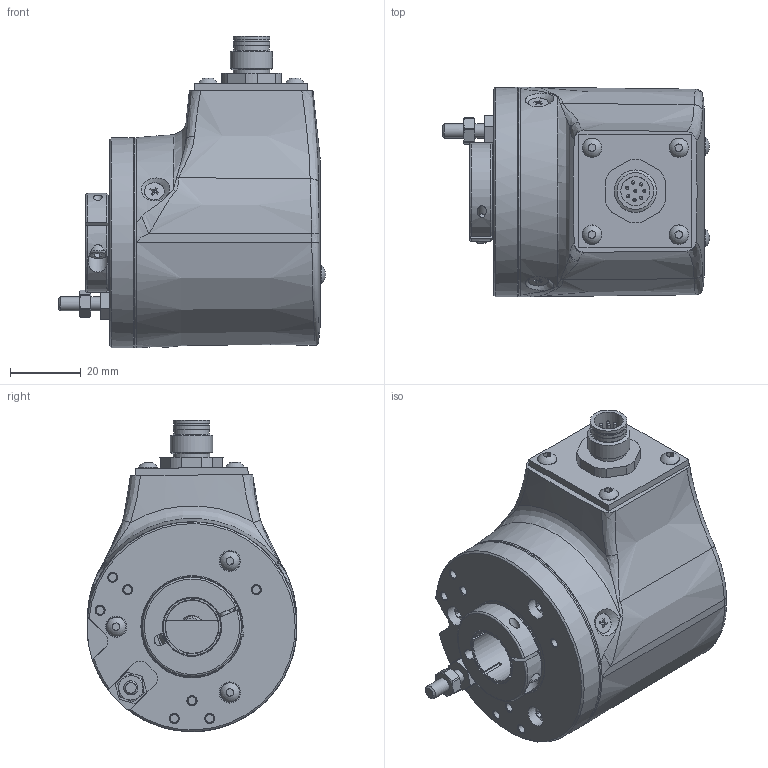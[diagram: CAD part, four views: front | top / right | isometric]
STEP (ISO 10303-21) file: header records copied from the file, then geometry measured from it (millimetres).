
FILE_DESCRIPTION(/* description */ ('Unknown'),/* implementation_level */ '2;1');
FILE_NAME(/* name */ 'EAL_EAML_63_G_M12R',/* time_stamp */ '2018-11-12T13:55:32+01:00',/* author */ ('Unknown'),/* organization */ ('Unknown'),/* preprocessor_version */ 'ST-DEVELOPER v16.7',/* originating_system */ 'DEX',/* authorisation */ $);
FILE_SCHEMA (('AUTOMOTIVE_DESIGN {1 0 10303 214 3 1 1}'));
Products named in the file (1): EAL_EAML_63_G_M12R
Bounding box: 75.74 x 59.5 x 88.27 mm (x, y, z)
Volume: 97362.9 mm3; surface area: 55745.1 mm2
Topology: 1 solids, 38 shells, 1681 faces, 4460 edges, 2945 vertices
Faces by surface type: plane 1132, cylinder 354, cone 137, torus 40, bspline 17, sphere 1
Full cylindrical faces by diameter (mm): 0.9 x16, 1.5 x8, 2.459 x20, 2.5 x2, 3 x12, 3.2 x1, 3.242 x2, 3.3 x1, 3.4 x3, 4 x5, 4.98 x1, 5 x3, 5.6 x3, 6 x6, 6.5 x2, 7.98 x1, 8 x3, 8.25 x1, 8.772 x1, 10 x6, 10.4 x3, 11 x1, 12 x1, 12.4 x1, 13 x2, 14.53 x1, 15 x1, 15.2 x1, 16 x1, 16.8 x1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
Entity records: 62431 total; most frequent: CARTESIAN_POINT 10650, DIRECTION 8041, ORIENTED_EDGE 7958, EDGE_CURVE 3979, LINE 2789, VECTOR 2789, VERTEX_POINT 2780, AXIS2_PLACEMENT_3D 2626
